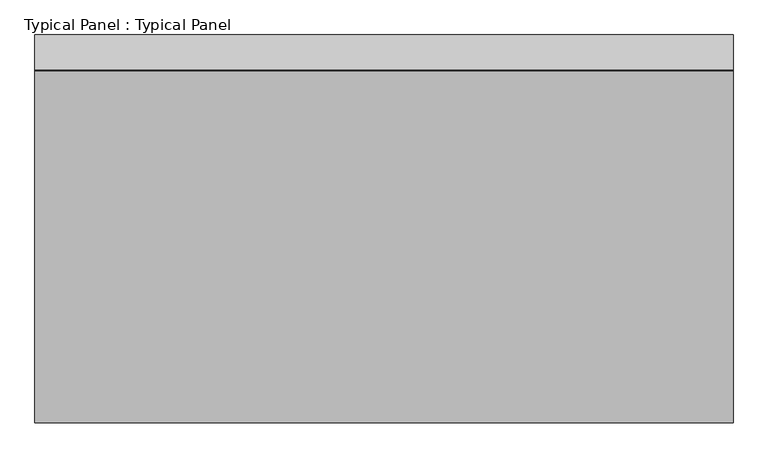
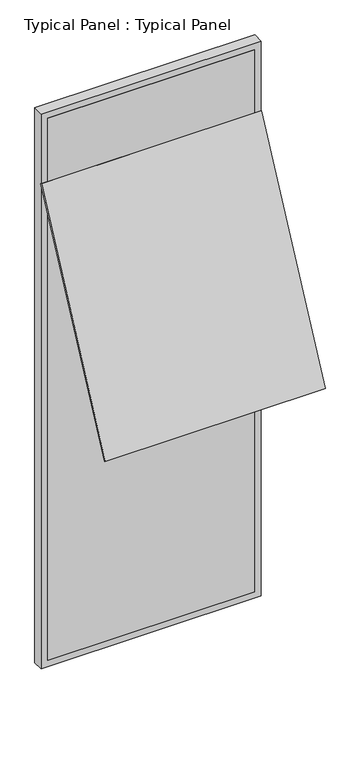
"""IFC4 building model written with IfcOpenShell, lengths in millimetres: plate geometry, Typical Panel : Typical Panel."""

from ifc_helpers import new_model, si_unit, frame, origin, place, context, project, spatial, polyline, outline, extrude, source, transform, mapped, element, save


def typical_panel_typical_panel_abac9c48(model_context):
    return source(origin(), model_context, "Body", "SweptSolid", [
        extrude(outline(polyline([(0.0, -10.0), (0.0, 0.0), (1500.0, 0.0), (1500.0, -10.0), (0.0, -10.0)])), frame((750.0, -758.9983725, 1954.0742404), z_axis=(0.0, 0.4383711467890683, 0.8987940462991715), x_axis=(-1.0, 0.0, 0.0)), (0.0, 0.0, 1.0), 1720.0),
        extrude(outline(polyline([(0.0, -750.0), (0.0, 750.0), (4000.0, 750.0), (4000.0, -750.0), (0.0, -750.0)]), holes=[polyline([(45.0, 705.0), (45.0, -705.0), (3955.0, -705.0), (3955.0, 705.0), (45.0, 705.0)])]), frame((0.0, -1.5797986, 0.0), z_axis=(0.0, 1.0, 0.0), x_axis=(0.0, 0.0, 1.0)), (0.0, 0.0, 1.0), 75.0),
        extrude(outline(polyline([(705.0, -1.5797986), (-705.0, -1.5797986), (-705.0, 13.4202014), (705.0, 13.4202014), (705.0, -1.5797986)])), frame((0.0, 0.0, 45.0), z_axis=(0.0, 0.0, 1.0), x_axis=(1.0, 0.0, 0.0)), (0.0, 0.0, 1.0), 3910.0),
    ])


if __name__ == "__main__":
    model = new_model("IFC4")
    model_context = context("Model", 3, world=origin())
    ifc_project = project(units=[si_unit("LENGTHUNIT", "METRE", prefix="MILLI")], contexts=[model_context])
    site = spatial("IfcSite", under=ifc_project)
    building = spatial("IfcBuilding", under=site)
    placement = place(None, origin())
    typical_panel_typical_panel_shape = typical_panel_typical_panel_abac9c48(model_context)
    element("IfcPlate", 1, ObjectType="Typical Panel : Typical Panel", at=placement, inside=building, context=model_context, shape_type="MappedRepresentation", body=[
        mapped(typical_panel_typical_panel_shape, transform((0.0, 0.0, 0.0), x_axis=(1.0, 0.0, 0.0), y_axis=(0.0, 1.0, 0.0), z_axis=(0.0, 0.0, 1.0))),
    ])
    save(model, "model.ifc")
